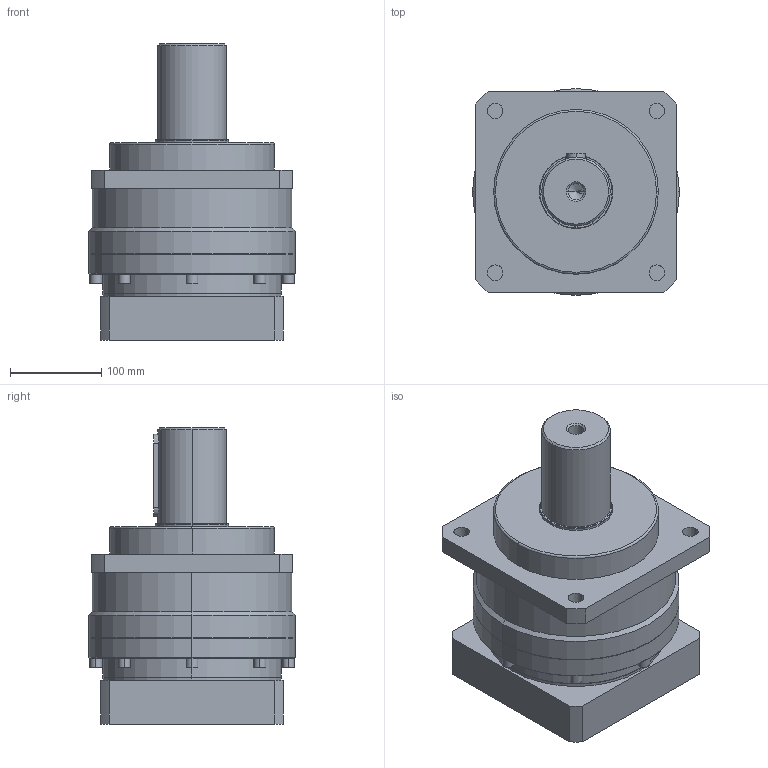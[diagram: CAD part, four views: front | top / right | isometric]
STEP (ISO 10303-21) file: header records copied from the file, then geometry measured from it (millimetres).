
FILE_DESCRIPTION (( 'STEP AP214' ), '1' );
FILE_NAME ('VRB-220-L1-S2-P1 42-180-215-M12.STEP', '2023-04-03T07:22:26', ( 'Admin' ), ( '' ), 'SwSTEP 2.0', 'SolidWorks 2018', '' );
FILE_SCHEMA (( 'AUTOMOTIVE_DESIGN' ));
Length unit declared in the file: millimetre
Products named in the file (1): VRB-220-L1-S2-P1 42-180-215-M12
Bounding box: 226 x 226 x 324 mm (x, y, z)
Volume: 7896373.2 mm3; surface area: 357615.8 mm2
Topology: 1 solids, 1 shells, 187 faces, 439 edges, 285 vertices
Faces by surface type: plane 100, cylinder 69, cone 16, torus 2
Entity records: 5519 total; most frequent: CARTESIAN_POINT 1005, DIRECTION 969, ORIENTED_EDGE 874, EDGE_CURVE 437, AXIS2_PLACEMENT_3D 347, VERTEX_POINT 285, LINE 275, VECTOR 275
